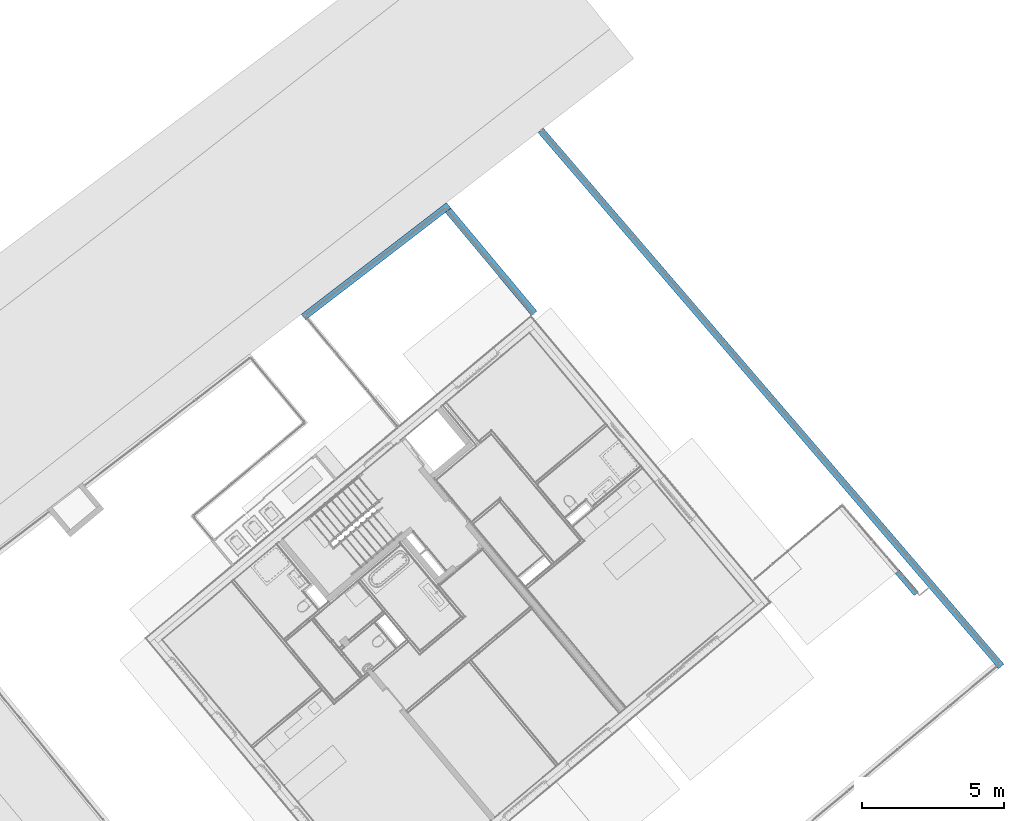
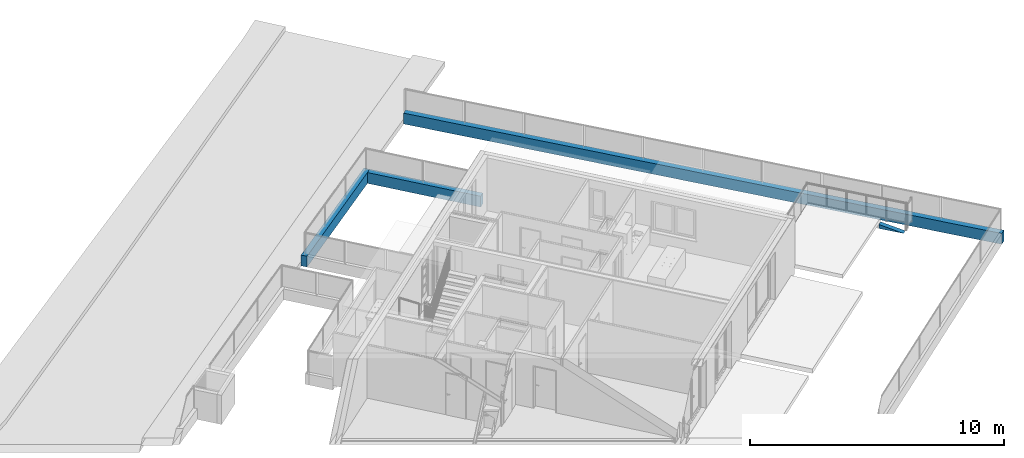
# One storey, part 11 of 75: 4 walls.
"""IFC4 building model written with IfcOpenShell, lengths in metres."""

from ifc_helpers import new_model, entity, si_unit, converted_unit, derived_unit, direction, frame, origin_with_axes, place, context, subcontext, project, spatial, polygons, material, type_object, element, save


model = new_model("IFC4")

# Units and contexts
model_context = context("Model", 3, precision=1e-05, world=origin_with_axes(), true_north=direction((0.0, 1.0)))
body_context = subcontext(model_context, "Body", "Model", "MODEL_VIEW")
ifc_project = project(units=[si_unit("LENGTHUNIT", "METRE"), si_unit("AREAUNIT", "SQUARE_METRE"), si_unit("VOLUMEUNIT", "CUBIC_METRE"), converted_unit("PLANEANGLEUNIT", "DEGREE", entity("IfcPlaneAngleMeasure", 0.0174532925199), si_unit("PLANEANGLEUNIT", "RADIAN"), dimensions=[0, 0, 0, 0, 0, 0, 0]), converted_unit("TIMEUNIT", "Year", entity("IfcTimeMeasure", 31556926.0), si_unit("TIMEUNIT", "SECOND"), dimensions=[0, 0, 1, 0, 0, 0, 0]), si_unit("MASSUNIT", "GRAM", prefix="KILO"), si_unit("THERMODYNAMICTEMPERATUREUNIT", "DEGREE_CELSIUS"), si_unit("LUMINOUSINTENSITYUNIT", "LUMEN"), si_unit("ENERGYUNIT", "JOULE", prefix="MEGA"), derived_unit("THERMALCONDUCTANCEUNIT", [(si_unit("POWERUNIT", "WATT"), 1), (si_unit("LENGTHUNIT", "METRE"), -1), (si_unit("THERMODYNAMICTEMPERATUREUNIT", "KELVIN"), -1)]), derived_unit("SPECIFICHEATCAPACITYUNIT", [(si_unit("ENERGYUNIT", "JOULE"), 1), (si_unit("MASSUNIT", "GRAM", prefix="KILO"), -1), (si_unit("THERMODYNAMICTEMPERATUREUNIT", "KELVIN"), -1)]), derived_unit("MASSDENSITYUNIT", [(si_unit("MASSUNIT", "GRAM", prefix="KILO"), 1), (si_unit("VOLUMEUNIT", "CUBIC_METRE"), -1)])], contexts=[model_context])

# Site, building, storey
site_placement = place(None, frame((-0.00153261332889, -0.00661245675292, 0.0), z_axis=(0.0, 0.0, 1.0), x_axis=(1.0, 0.0, 0.0)))
site = spatial("IfcSite", under=ifc_project, at=site_placement, Name="Gelände", CompositionType="ELEMENT")
building_placement = place(site_placement, origin_with_axes())
building = spatial("IfcBuilding", under=site, at=building_placement, Name="Gebäude", CompositionType="ELEMENT")
storey_placement = place(building_placement, frame((0.0, 0.0, -0.22), z_axis=(0.0, 0.0, 1.0), x_axis=(1.0, 0.0, 0.0)))
storey = spatial("IfcBuildingStorey", under=building, at=storey_placement, Name="EG", CompositionType="ELEMENT", Elevation=-0.22)

# Walls
ifc_material = material(Name="Stahlbeton Wand")
wall_type_1 = type_object("IfcWallType", Name="Stahlbeton Wand 250", PredefinedType="NOTDEFINED")
wall_1_placement = place(storey_placement, frame((-3.18795489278, 30.4575473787, 0.0), z_axis=(0.0, 0.0, 1.0), x_axis=(0.792729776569, 0.609573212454, 0.0)))
element("IfcWall", 1, at=wall_1_placement, inside=storey, type_object=wall_type_1, material=ifc_material, Name="Wand-008", PredefinedType="NOTDEFINED", context=body_context, shape_type="Tessellation", body=[
    polygons([(6.48450034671, -0.25, 0.52), (6.47436977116, 0.0, 0.52), (0.0, 0.0, 0.52), (0.010105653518, -0.25, 0.52), (6.48450034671, -0.25, 0.0), (6.47436977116, 0.0, 0.0), (0.0, 0.0, 0.0), (0.010105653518, -0.25, 0.0)], [[[1, 2, 3, 4]], [[2, 1, 5, 6]], [[2, 6, 7, 3]], [[8, 4, 3, 7]], [[5, 1, 4, 8]], [[6, 5, 8, 7]]], closed=True),
])
wall_2_placement = place(storey_placement, frame((1.94447080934, 34.4041497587, 0.0), z_axis=(0.0, 0.0, 1.0), x_axis=(0.641170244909, -0.767398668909, 0.0)))
element("IfcWall", 2, at=wall_2_placement, inside=storey, type_object=wall_type_1, material=ifc_material, Name="Wand-009", PredefinedType="NOTDEFINED", context=body_context, shape_type="Tessellation", body=[
    polygons([(0.240074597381, -0.25, 0.52), (4.99207023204, -0.25, 0.52), (4.99207023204, 0.0, 0.52), (0.25020517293, 0.0, 0.52), (0.240074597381, -0.25, 0.0), (4.99207023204, -0.25, 0.0), (4.99207023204, 0.0, 0.0), (0.25020517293, 0.0, 0.0)], [[[1, 2, 3, 4]], [[5, 6, 2, 1]], [[3, 2, 6, 7]], [[4, 3, 7, 8]], [[5, 1, 4, 8]], [[8, 7, 6, 5]]], closed=True),
])
wall_3_placement = place(storey_placement, frame((5.37177482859, 37.0395909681, 0.0), z_axis=(0.0, 0.0, 1.0), x_axis=(0.6517064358, -0.758471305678, 0.0)))
element("IfcWall", 3, at=wall_3_placement, inside=storey, type_object=wall_type_1, material=ifc_material, Name="Wand-003", PredefinedType="NOTDEFINED", context=body_context, shape_type="Tessellation", body=[
    polygons([(24.9710105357, -0.25, 0.52), (24.974429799, 0.0, 0.52), (0.0, 0.0, 0.52), (0.0, -0.25, 0.52), (24.9710105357, -0.25, 0.0), (24.974429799, 0.0, 0.0), (0.0, 0.0, 0.0), (0.0, -0.25, 0.0)], [[[1, 2, 3, 4]], [[2, 1, 5, 6]], [[2, 6, 7, 3]], [[8, 4, 3, 7]], [[5, 1, 4, 8]], [[6, 5, 8, 7]]], closed=True),
])
wall_type_2 = type_object("IfcWallType", Name="Stahlbeton Wand 200", PredefinedType="NOTDEFINED")
wall_4_placement = place(storey_placement, frame((17.9558346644, 21.4265068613, 0.0), z_axis=(0.0, 0.0, 1.0), x_axis=(0.653009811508, -0.757349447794, 0.0)))
element("IfcWall", 4, at=wall_4_placement, inside=storey, type_object=wall_type_2, material=ifc_material, Name="Wand-006", PredefinedType="NOTDEFINED", context=body_context, shape_type="Tessellation", body=[
    polygons([(0.0, 0.0, 0.0), (4.84426951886e-08, -5.27641574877e-08, 0.19691467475), (1.03274082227, -2.84457541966e-08, -1.59269430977e-10), (-0.000348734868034, -0.2, 0.0), (-0.000348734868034, -0.2, 0.195820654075), (1.02665432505, -0.2, 0.0)], [[[1, 2, 3]], [[4, 5, 2, 1]], [[5, 6, 3, 2]], [[1, 3, 6, 4]], [[4, 6, 5]]], closed=True),
])

save(model, "model.ifc")
